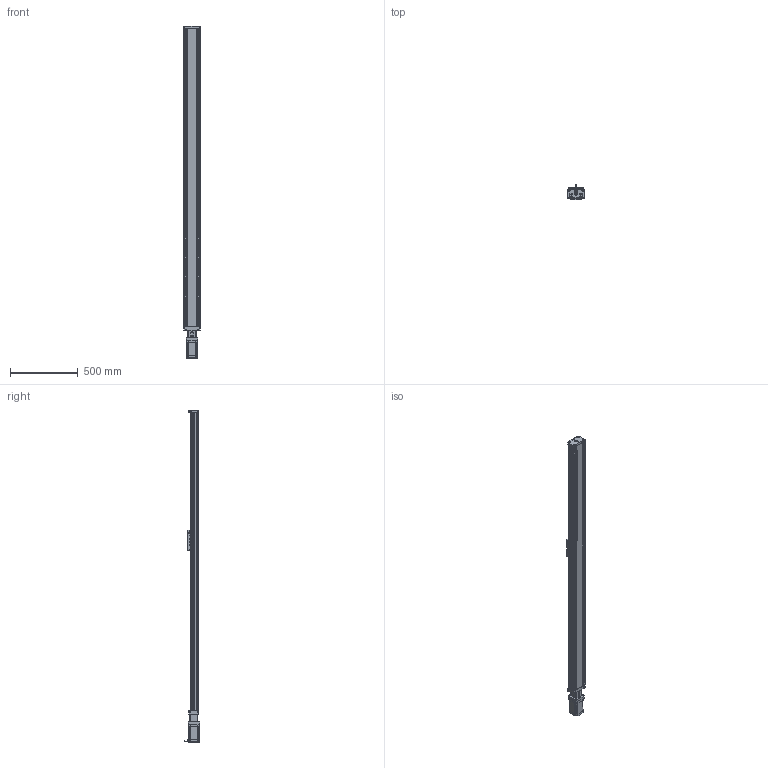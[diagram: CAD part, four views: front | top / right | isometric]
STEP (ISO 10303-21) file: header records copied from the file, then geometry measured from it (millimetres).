
FILE_DESCRIPTION (( 'STEP AP214' ), '1' );
FILE_NAME ('PCH120C7L20E2000BC.STEP', '2021-01-28T03:58:56', ( '' ), ( '' ), 'SwSTEP 2.0', 'SolidWorks 2016', '' );
FILE_SCHEMA (( 'AUTOMOTIVE_DESIGN' ));
Length unit declared in the file: millimetre
Products named in the file (23): M6x25 内六角圆柱头螺钉_M6x25; PYSL120-2200; M3x6 坋趼羞麥芛蹟隊_M3x6; FM86128SJT03 步进电机_不带刹车; HGH15CA（方） 方滑块; 滅袉輸-5ㄗ120Sㄘ; 佪裝蹟譫SFE2020; M6x30 内六角圆柱头螺钉_M6x30; 迍啣ㄗ120Sㄘ; 蟀諉輸ㄗ120Sㄘ; 萇儂蟀諉楊擘ㄗ86ㄘ; 6000 旮僱⑩粣創; 綴蟀諉啣ㄗ120Sㄘ; 裔啣ㄗ120Sㄘ; 60萇儂徹傾釱; 佪裝SFE2020-120-1766; HRH15-1410_佪裝 俴最600; 祥凄詩湍-2220; 滅袉輸-20ㄗ120Sㄘ; ヶ蟀諉啣ㄗ120Sㄘ; M6x20 内六角圆柱头螺钉_M6x20; PCH120C7L20E2000BC; 7201C 褒諉揖⑩粣創
Assembly tree (39 placements, depth 2):
  PCH120C7L20E2000BC
    PYSL120-2200
    HRH15-1410_佪裝 俴最600  x2
    HGH15CA（方） 方滑块  x4
    綴蟀諉啣ㄗ120Sㄘ
    ヶ蟀諉啣ㄗ120Sㄘ
    60萇儂徹傾釱
    6000 旮僱⑩粣創
    7201C 褒諉揖⑩粣創  x2
    佪裝SFE2020-120-1766
    滅袉輸-5ㄗ120Sㄘ
    滅袉輸-20ㄗ120Sㄘ
    蟀諉輸ㄗ120Sㄘ
    迍啣ㄗ120Sㄘ
    裔啣ㄗ120Sㄘ
    祥凄詩湍-2220
    萇儂蟀諉楊擘ㄗ86ㄘ
    FM86128SJT03 步进电机_不带刹车
    佪裝蹟譫SFE2020
    M6x25 内六角圆柱头螺钉_M6x25  x4
    M6x30 内六角圆柱头螺钉_M6x30  x4
    M6x20 内六角圆柱头螺钉_M6x20  x4
    M3x6 坋趼羞麥芛蹟隊_M3x6  x4
Bounding box: 120 x 114 x 2447 mm (x, y, z)
Volume: 6936927 mm3; surface area: 2560553.4 mm2
Topology: 39 solids, 39 shells, 3275 faces, 8437 edges, 5240 vertices
Faces by surface type: plane 1442, cylinder 1167, cone 468, bspline 198
Entity records: 73753 total; most frequent: CARTESIAN_POINT 15538, DIRECTION 11457, ORIENTED_EDGE 11264, EDGE_CURVE 5632, AXIS2_PLACEMENT_3D 4192, VERTEX_POINT 3597, LINE 3073, VECTOR 3073
